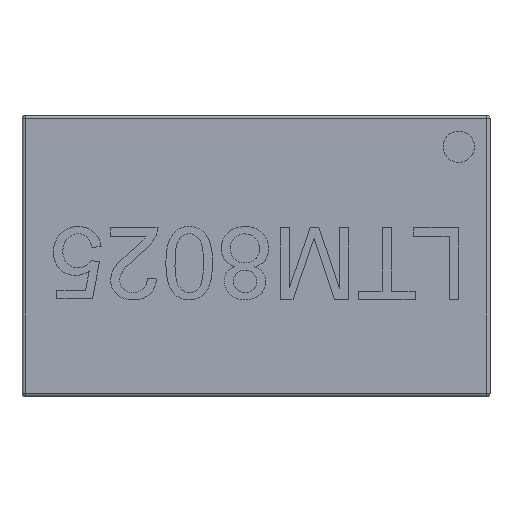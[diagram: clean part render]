
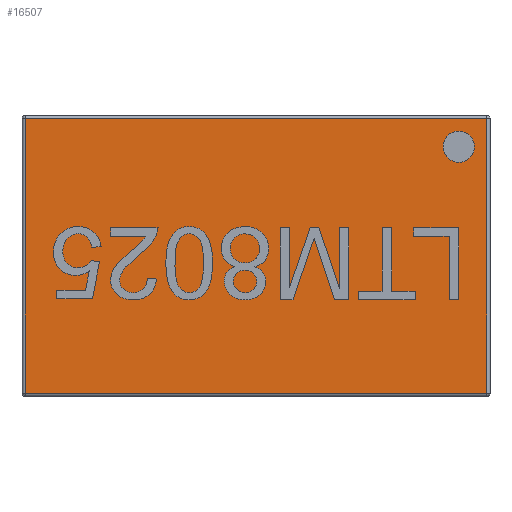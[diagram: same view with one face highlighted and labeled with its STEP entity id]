
A CAD part, top view. The second image highlights one B-rep face of the part: STEP entity #16507.
In plain terms, the highlighted planar face has unit normal (0, 0, 1).
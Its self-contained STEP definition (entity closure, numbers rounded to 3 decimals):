
#1131 = CARTESIAN_POINT ( 'NONE',  ( 15., 0.1, 4.3 ) ) ;
#1866 = ORIENTED_EDGE ( 'NONE', *, *, #12609, .F. ) ;
#1966 = CARTESIAN_POINT ( 'NONE',  ( 0., 9., 4.3 ) ) ;
#2210 = VERTEX_POINT ( 'NONE', #3551 ) ;
#2325 = ORIENTED_EDGE ( 'NONE', *, *, #13315, .F. ) ;
#2587 = LINE ( 'NONE', #10797, #11559 ) ;
#2710 = CARTESIAN_POINT ( 'NONE',  ( 0.1, 0., 4.3 ) ) ;
#2787 = VECTOR ( 'NONE', #13576, 1000. ) ;
#3551 = CARTESIAN_POINT ( 'NONE',  ( 0.1, 8.9, 4.3 ) ) ;
#3763 = DIRECTION ( 'NONE',  ( -1., 0., 0. ) ) ;
#4506 = DIRECTION ( 'NONE',  ( 0., 1., 0. ) ) ;
#4631 = CARTESIAN_POINT ( 'NONE',  ( 14.9, 8.9, 4.3 ) ) ;
#5506 = PLANE ( 'NONE',  #12139 ) ;
#7531 = LINE ( 'NONE', #20643, #2787 ) ;
#7939 = CARTESIAN_POINT ( 'NONE',  ( 14.9, 0.1, 4.3 ) ) ;
#8401 = ORIENTED_EDGE ( 'NONE', *, *, #20822, .F. ) ;
#10797 = CARTESIAN_POINT ( 'NONE',  ( 0., 8.9, 4.3 ) ) ;
#10923 = FACE_OUTER_BOUND ( 'NONE', #19694, .T. ) ;
#11559 = VECTOR ( 'NONE', #18016, 1000. ) ;
#12139 = AXIS2_PLACEMENT_3D ( 'NONE', #1966, #14535, #3763 ) ;
#12609 = EDGE_CURVE ( 'NONE', #14970, #2210, #22789, .T. ) ;
#12866 = CARTESIAN_POINT ( 'NONE',  ( 0.1, 0.1, 4.3 ) ) ;
#13218 = VECTOR ( 'NONE', #4506, 1000. ) ;
#13315 = EDGE_CURVE ( 'NONE', #16834, #14358, #7531, .T. ) ;
#13537 = VECTOR ( 'NONE', #15602, 1000. ) ;
#13576 = DIRECTION ( 'NONE',  ( 0., -1., 0. ) ) ;
#14358 = VERTEX_POINT ( 'NONE', #7939 ) ;
#14535 = DIRECTION ( 'NONE',  ( 0., 0., -1. ) ) ;
#14970 = VERTEX_POINT ( 'NONE', #12866 ) ;
#15602 = DIRECTION ( 'NONE',  ( -1., 0., 0. ) ) ;
#15857 = EDGE_CURVE ( 'NONE', #14358, #14970, #23104, .T. ) ;
#16507 = ADVANCED_FACE ( 'NONE', ( #10923 ), #5506, .F. ) ;
#16834 = VERTEX_POINT ( 'NONE', #4631 ) ;
#18016 = DIRECTION ( 'NONE',  ( 1., 0., 0. ) ) ;
#19694 = EDGE_LOOP ( 'NONE', ( #1866, #21418, #2325, #8401 ) ) ;
#20643 = CARTESIAN_POINT ( 'NONE',  ( 14.9, 9., 4.3 ) ) ;
#20822 = EDGE_CURVE ( 'NONE', #2210, #16834, #2587, .T. ) ;
#21418 = ORIENTED_EDGE ( 'NONE', *, *, #15857, .F. ) ;
#22789 = LINE ( 'NONE', #2710, #13218 ) ;
#23104 = LINE ( 'NONE', #1131, #13537 ) ;
